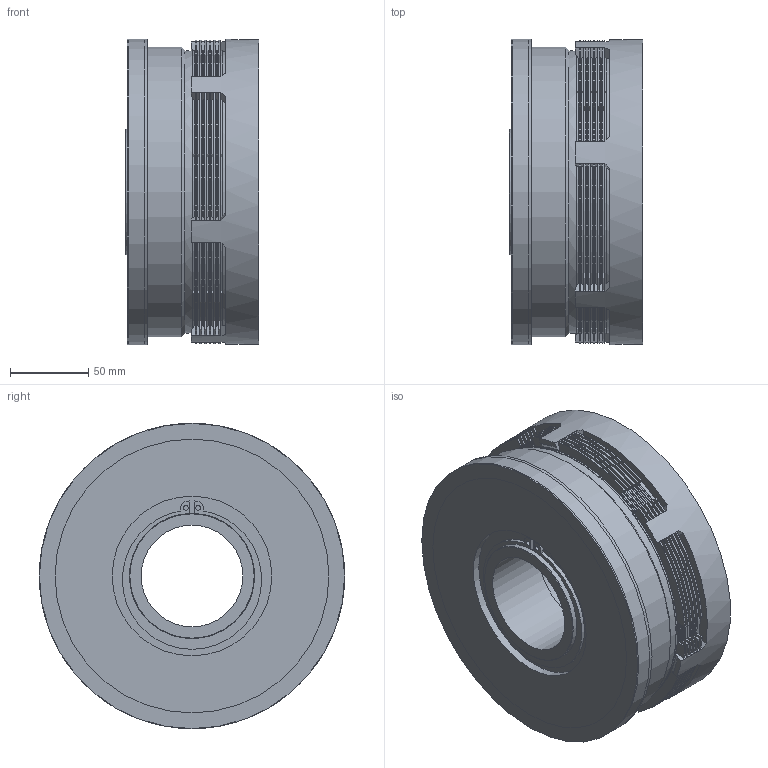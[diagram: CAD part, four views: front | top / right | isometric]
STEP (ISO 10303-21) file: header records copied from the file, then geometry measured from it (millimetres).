
FILE_DESCRIPTION(/* description */ (''),/* implementation_level */ '2;1');
FILE_NAME(/* name */ 'X:\INVENTOR\DISEGNI\05_Friz_Elettmag-Lam\05_03 EC_C\05_03_195_01 EC195_C\05_03_195_01 EC195_C@STEP.stp',/* time_stamp */ '2023-03-08T15:26:43+01:00',/* author */ ('alessio'),/* organization */ (''),/* preprocessor_version */ 'ST-DEVELOPER v18.1',/* originating_system */ 'Autodesk Inventor 2021',/* authorisation */ '');
FILE_SCHEMA (('AUTOMOTIVE_DESIGN { 1 0 10303 214 3 1 1 }'));
Products named in the file (1): 05_03_195_01 EC195_C
Bounding box: 85 x 195 x 195 mm (x, y, z)
Volume: 1836697.4 mm3; surface area: 642504.3 mm2
Topology: 6 solids, 8 shells, 3042 faces, 9215 edges, 6044 vertices
Faces by surface type: cylinder 2208, plane 692, cone 141, torus 1
Full cylindrical faces by diameter (mm): 3 x3, 65 x2, 67 x1, 70 x1, 76.5 x1, 80 x1, 89 x1, 100 x1, 102 x1, 131 x1, 135 x1, 153 x1, 155 x1, 180 x1, 180.5 x1, 182.25 x1, 185 x1, 195 x4
Entity records: 109829 total; most frequent: DIRECTION 20425, CARTESIAN_POINT 19205, ORIENTED_EDGE 18430, EDGE_CURVE 9215, AXIS2_PLACEMENT_3D 8450, VERTEX_POINT 6044, CIRCLE 5383, LINE 3525
